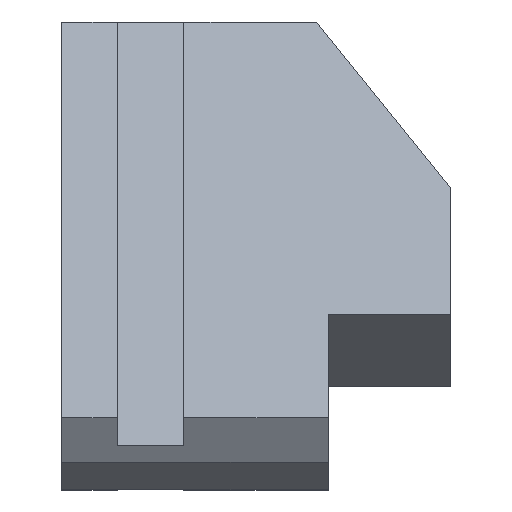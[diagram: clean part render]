
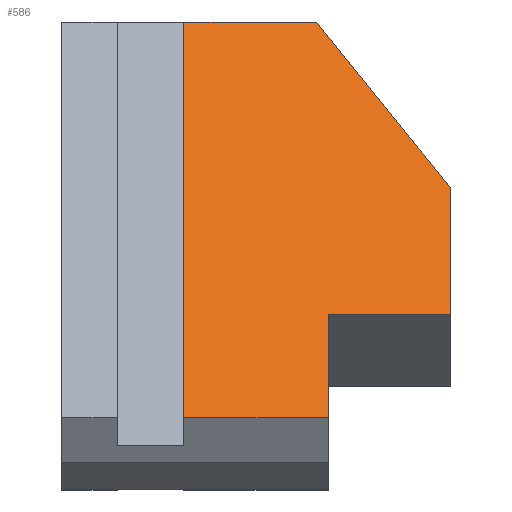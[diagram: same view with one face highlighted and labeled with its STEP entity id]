
A CAD part, top view. The second image highlights one B-rep face of the part: STEP entity #586.
In plain terms, the highlighted planar face has unit normal (0, 0.5, 0.866) as drawn and (0, 1, 0) by its records, which use the part's own axes.
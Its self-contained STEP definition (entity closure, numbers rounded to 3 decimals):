
#426=CARTESIAN_POINT('Vertex',(87.,13.,23.926)) ;
#454=CARTESIAN_POINT('Vertex',(87.,13.,0.)) ;
#457=CARTESIAN_POINT('Line Origine',(87.,13.,11.963)) ;
#473=CARTESIAN_POINT('Axis2P3D Location',(0.,13.,-12.)) ;
#502=CARTESIAN_POINT('Line Origine',(4.619,13.,13.)) ;
#506=CARTESIAN_POINT('Vertex',(4.619,13.,26.)) ;
#508=CARTESIAN_POINT('Vertex',(4.619,13.,0.)) ;
#546=CARTESIAN_POINT('Line Origine',(45.809,13.,0.)) ;
#551=CARTESIAN_POINT('Line Origine',(15.362,13.,26.)) ;
#555=CARTESIAN_POINT('Vertex',(26.106,13.,26.)) ;
#558=CARTESIAN_POINT('Line Origine',(26.106,13.,37.)) ;
#562=CARTESIAN_POINT('Vertex',(26.106,13.,48.)) ;
#565=CARTESIAN_POINT('Line Origine',(39.362,13.,48.)) ;
#569=CARTESIAN_POINT('Vertex',(52.619,13.,48.)) ;
#572=CARTESIAN_POINT('Line Origine',(69.809,13.,35.963)) ;
#458=DIRECTION('Vector Direction',(0.,0.,-1.)) ;
#474=DIRECTION('Axis2P3D Direction',(0.,-1.,0.)) ;
#475=DIRECTION('Axis2P3D XDirection',(0.,0.,-1.)) ;
#503=DIRECTION('Vector Direction',(0.,0.,-1.)) ;
#547=DIRECTION('Vector Direction',(1.,0.,0.)) ;
#552=DIRECTION('Vector Direction',(1.,0.,0.)) ;
#559=DIRECTION('Vector Direction',(0.,0.,1.)) ;
#566=DIRECTION('Vector Direction',(1.,0.,0.)) ;
#573=DIRECTION('Vector Direction',(0.819,0.,-0.574)) ;
#476=AXIS2_PLACEMENT_3D('Plane Axis2P3D',#473,#474,#475) ;
#578=ORIENTED_EDGE('',*,*,#461,.T.) ;
#579=ORIENTED_EDGE('',*,*,#550,.F.) ;
#580=ORIENTED_EDGE('',*,*,#510,.F.) ;
#581=ORIENTED_EDGE('',*,*,#557,.F.) ;
#582=ORIENTED_EDGE('',*,*,#564,.F.) ;
#583=ORIENTED_EDGE('',*,*,#571,.T.) ;
#584=ORIENTED_EDGE('',*,*,#576,.F.) ;
#459=VECTOR('Line Direction',#458,1.) ;
#504=VECTOR('Line Direction',#503,1.) ;
#548=VECTOR('Line Direction',#547,1.) ;
#553=VECTOR('Line Direction',#552,1.) ;
#560=VECTOR('Line Direction',#559,1.) ;
#567=VECTOR('Line Direction',#566,1.) ;
#574=VECTOR('Line Direction',#573,1.) ;
#586=ADVANCED_FACE('',(#585),#477,.F.) ;
#461=EDGE_CURVE('',#427,#455,#460,.T.) ;
#510=EDGE_CURVE('',#507,#509,#505,.T.) ;
#550=EDGE_CURVE('',#509,#455,#549,.T.) ;
#557=EDGE_CURVE('',#556,#507,#554,.F.) ;
#564=EDGE_CURVE('',#563,#556,#561,.F.) ;
#571=EDGE_CURVE('',#563,#570,#568,.T.) ;
#576=EDGE_CURVE('',#427,#570,#575,.F.) ;
#577=EDGE_LOOP('',(#578,#579,#580,#581,#582,#583,#584)) ;
#585=FACE_OUTER_BOUND('',#577,.T.) ;
#460=LINE('Line',#457,#459) ;
#505=LINE('Line',#502,#504) ;
#549=LINE('Line',#546,#548) ;
#554=LINE('Line',#551,#553) ;
#561=LINE('Line',#558,#560) ;
#568=LINE('Line',#565,#567) ;
#575=LINE('Line',#572,#574) ;
#477=PLANE('Plane',#476) ;
#427=VERTEX_POINT('',#426) ;
#455=VERTEX_POINT('',#454) ;
#507=VERTEX_POINT('',#506) ;
#509=VERTEX_POINT('',#508) ;
#556=VERTEX_POINT('',#555) ;
#563=VERTEX_POINT('',#562) ;
#570=VERTEX_POINT('',#569) ;
